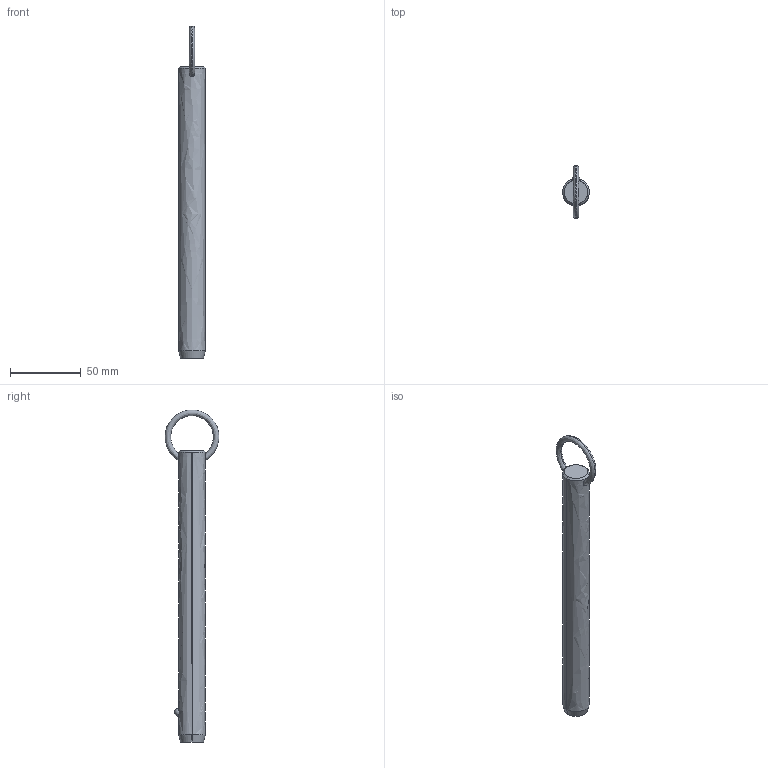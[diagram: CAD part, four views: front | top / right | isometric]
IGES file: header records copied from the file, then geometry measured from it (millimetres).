
Start section: SolidWorks IGES file using analytic representation for surfaces
Global section: file name: C:\Users\liam_\OneDrive\Documents\WORK\Work for WixRoyd\Job Files\J-00019 - Matt Davis CAD Checking\04. CAD Drawings\automotion20190605\P1250.2_v2\P1250.2_v2_20190729_IGES\P1250.075-680.igs; native system: SolidWorks 2017; preprocessor: SolidWorks 2017; author: liam_; date: 190730.000046; units: millimetre
Bounding box: 19 x 38.09 x 234.49 mm (x, y, z)
Surface area: 13823 mm2 (no closed solid volume)
Topology: 0 solids, 0 shells, 12 faces, 294 edges, 292 vertices
Faces by surface type: revolution 8, bspline 4
